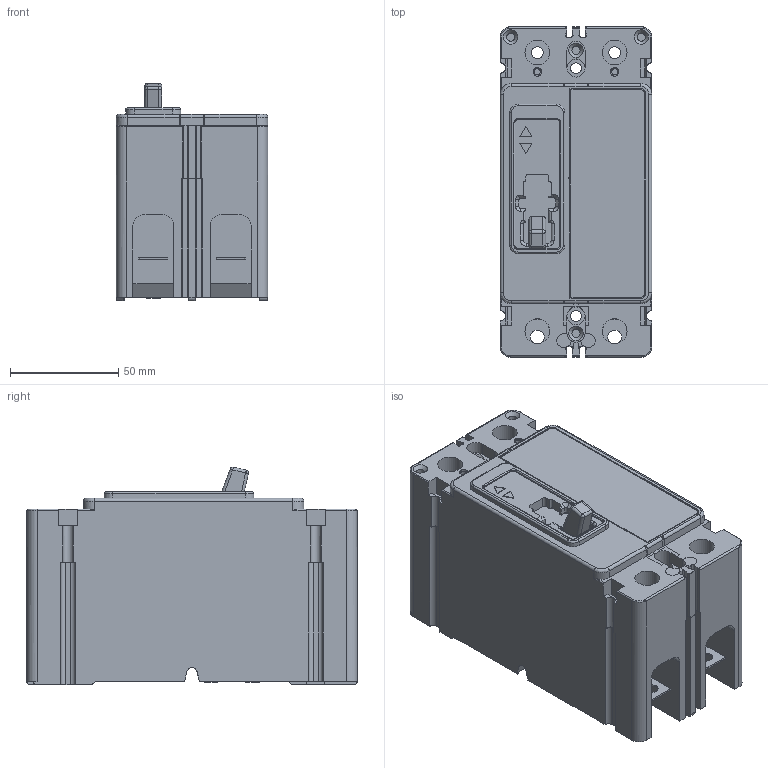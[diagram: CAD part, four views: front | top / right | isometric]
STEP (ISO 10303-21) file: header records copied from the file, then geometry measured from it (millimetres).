
FILE_DESCRIPTION((''),'2;1');
FILE_NAME('C:\Users\E0021267\Desktop\CAD Model Project\ECO-074990 - FD FIXES - In Process\FDB2_.stp','2014-12-09T17:20:03',('E0021267'),(''),'Autodesk Inventor 2013','Autodesk Inventor 2013','');
FILE_SCHEMA(('AUTOMOTIVE_DESIGN { 1 2 10303 214 0 1 1 1 }'));
Length unit declared in the file: inch
Products named in the file (1): FDB2_
Bounding box: 69.85 x 152.4 x 100.4 mm (x, y, z)
Volume: 764130.1 mm3; surface area: 86104.3 mm2
Topology: 1 solids, 1 shells, 711 faces, 1938 edges, 1256 vertices
Faces by surface type: plane 482, cylinder 177, bspline 18, torus 18, cone 12, sphere 4
Full cylindrical faces by diameter (mm): 2.794 x2, 3.708 x8, 3.962 x2, 5.004 x2, 5.563 x2, 6.35 x4, 8.331 x2, 8.738 x2, 11.43 x4
Entity records: 22921 total; most frequent: CARTESIAN_POINT 4840, ORIENTED_EDGE 3780, DIRECTION 3673, EDGE_CURVE 1890, VECTOR 1413, LINE 1413, VERTEX_POINT 1248, AXIS2_PLACEMENT_3D 1130
